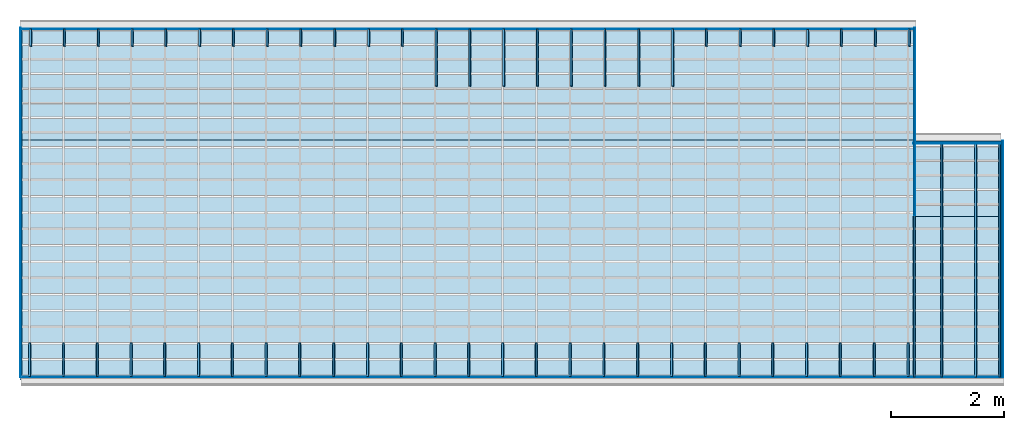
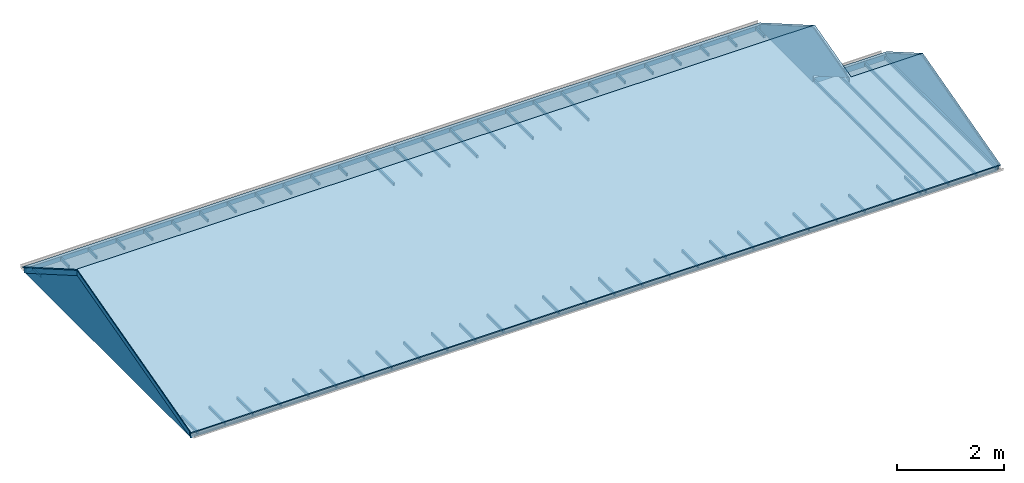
# One storey, part 1 of 12: 61 beams, 6 discrete accessories, 3 slabs, 3 walls.
"""IFC2X3 building model written with IfcOpenShell, lengths in millimetres."""

from ifc_helpers import new_model, entity, si_unit, converted_unit, money_unit, direction, frame, origin_with_axes, place, context, subcontext, project, spatial, polyline, outline, extrude, faceted_brep, source, transform, mapped, material, layer, layer_set, layer_usage, type_object, element, save


model = new_model("IFC2X3")

# Units and contexts
model_context = context("Model", 3, precision=1e-05, world=origin_with_axes(), true_north=direction((0.0, 1.0)))
body_context = subcontext(model_context, "Body", "Model", "MODEL_VIEW")
ifc_project = project(units=[si_unit("LENGTHUNIT", "METRE", prefix="MILLI"), si_unit("AREAUNIT", "SQUARE_METRE"), si_unit("VOLUMEUNIT", "CUBIC_METRE"), converted_unit("PLANEANGLEUNIT", "DEGREE", entity("IfcPlaneAngleMeasure", 0.0174532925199), si_unit("PLANEANGLEUNIT", "RADIAN"), dimensions=[0, 0, 0, 0, 0, 0, 0]), si_unit("SOLIDANGLEUNIT", "STERADIAN"), money_unit("AUD"), si_unit("TIMEUNIT", "SECOND"), si_unit("MASSUNIT", "GRAM"), si_unit("THERMODYNAMICTEMPERATUREUNIT", "DEGREE_CELSIUS"), si_unit("LUMINOUSINTENSITYUNIT", "LUMEN")], contexts=[model_context])

# Site, building, storey
site_placement = place(None, origin_with_axes())
site = spatial("IfcSite", under=ifc_project, at=site_placement, Name="Lot 1. East Hills", CompositionType="ELEMENT")
building_placement = place(site_placement, origin_with_axes())
building = spatial("IfcBuilding", under=site, at=building_placement, Name="Proposed Units 7 & 8", CompositionType="ELEMENT")
storey_placement = place(building_placement, frame((0.0, 0.0, 8395.0), z_axis=(0.0, 0.0, 1.0), x_axis=(1.0, 0.0, 0.0)))
storey = spatial("IfcBuildingStorey", under=building, at=storey_placement, Name="Roof", CompositionType="ELEMENT", Elevation=8395.0)

# Beams
ifc_material_1 = material(Name="50 %")
beam_type = type_object("IfcBeamType", Name="Purlin 12", PredefinedType="NOTDEFINED")
shared_shape_1 = source(origin_with_axes(), body_context, "Body", "Brep", [
    faceted_brep([(0.0, -17.5, 65.0), (0.0, -17.5, 0.0), (300.0, -17.5, 0.0), (300.0, -17.5, 65.0), (0.0, 17.5, 65.0), (0.0, 17.5, 0.0), (300.0, 17.5, 0.0), (300.0, 17.5, 65.0)], [[[0, 1, 2, 3]], [[0, 4, 5, 1]], [[1, 5, 6, 2]], [[3, 2, 6, 7]], [[4, 0, 3, 7]], [[5, 4, 7, 6]]]),
])
beam_1_placement = place(storey_placement, frame((13955.0, 5263.0, -168.797689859), z_axis=(0.0, 0.0, 1.0), x_axis=(0.0, 1.0, 0.0)))
element("IfcBeam", 1, at=beam_1_placement, inside=storey, type_object=beam_type, material=ifc_material_1, Name="ROOF_BAT_01 - Purlin 12 - object -", ObjectType="Purlin 12", context=body_context, shape_type="MappedRepresentation", body=[
    mapped(shared_shape_1, transform((0.0, 0.0, 0.0))),
])
shared_shape_2 = source(origin_with_axes(), body_context, "Body", "Brep", [
    faceted_brep([(0.0, -17.5, 65.0), (0.0, -17.5, 0.0), (315.0, -17.5, 0.0), (315.0, -17.5, 65.0), (0.0, 17.5, 65.0), (0.0, 17.5, 0.0), (315.0, 17.5, 0.0), (315.0, 17.5, 65.0)], [[[0, 1, 2, 3]], [[0, 4, 5, 1]], [[1, 5, 6, 2]], [[3, 2, 6, 7]], [[4, 0, 3, 7]], [[5, 4, 7, 6]]]),
])
for number, where, z_axis, x_axis, name in (
    (2, (14555.0, 5263.0, -168.797689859), (0.0, 0.0, 1.0), (0.0, 1.0, 0.0), "ROOF_BAT_02 - Purlin 12 - object -"),
    (3, (15155.0, 5263.0, -168.797689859), (0.0, 0.0, 1.0), (0.0, 1.0, 0.0), "ROOF_BAT_03 - Purlin 12 - object -"),
    (4, (15755.0, 5263.0, -168.797689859), (0.0, 0.0, 1.0), (0.0, 1.0, 0.0), "ROOF_BAT_04 - Purlin 12 - object -"),
    (5, (13355.0, 5263.0, -168.797689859), (0.0, 0.0, 1.0), (0.0, 1.0, 0.0), "ROOF_BAT_05 - Purlin 12 - object -"),
    (6, (12755.0, 5263.0, -168.797689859), (0.0, 0.0, 1.0), (0.0, 1.0, 0.0), "ROOF_BAT_06 - Purlin 12 - object -"),
    (7, (12155.0, 5263.0, -168.797689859), (0.0, 0.0, 1.0), (0.0, 1.0, 0.0), "ROOF_BAT_07 - Purlin 12 - object -"),
    (8, (6755.0, 5263.0, -168.797689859), (0.0, 0.0, 1.0), (0.0, 1.0, 0.0), "ROOF_BAT_09 - Purlin 12 - object -"),
    (9, (6155.0, 5263.0, -168.797689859), (0.0, 0.0, 1.0), (0.0, 1.0, 0.0), "ROOF_BAT_10 - Purlin 12 - object -"),
    (10, (5555.0, 5263.0, -168.797689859), (0.0, 0.0, 1.0), (0.0, 1.0, 0.0), "ROOF_BAT_11 - Purlin 12 - object -"),
    (11, (4955.0, 5263.0, -168.797689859), (0.0, 0.0, 1.0), (0.0, 1.0, 0.0), "ROOF_BAT_12 - Purlin 12 - object -"),
    (12, (4355.0, 5263.0, -168.797689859), (0.0, 0.0, 1.0), (0.0, 1.0, 0.0), "ROOF_BAT_13 - Purlin 12 - object -"),
    (13, (3755.0, 5263.0, -168.797689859), (0.0, 0.0, 1.0), (0.0, 1.0, 0.0), "ROOF_BAT_14 - Purlin 12 - object -"),
    (14, (3155.0, 5263.0, -168.797689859), (0.0, 0.0, 1.0), (0.0, 1.0, 0.0), "ROOF_BAT_15 - Purlin 12 - object -"),
    (15, (2555.0, 5263.0, -168.797689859), (0.0, 0.0, 1.0), (0.0, 1.0, 0.0), "ROOF_BAT_16 - Purlin 12 - object -"),
    (16, (1955.0, 5263.0, -168.797689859), (0.0, 0.0, 1.0), (0.0, 1.0, 0.0), "ROOF_BAT_17 - Purlin 12 - object -"),
    (17, (1355.0, 5263.0, -168.797689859), (0.0, 0.0, 1.0), (0.0, 1.0, 0.0), "ROOF_BAT_18 - Purlin 12 - object -"),
    (18, (755.0, 5263.0, -168.797689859), (0.0, 0.0, 1.0), (0.0, 1.0, 0.0), "ROOF_BAT_19 - Purlin 12 - object -"),
    (19, (155.0, 5263.0, -168.797689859), (0.0, 0.0, 1.0), (0.0, 1.0, 0.0), "ROOF_BAT_20 - Purlin 12 - object -"),
):
    element("IfcBeam", number, at=place(storey_placement, frame(where, z_axis=z_axis, x_axis=x_axis)), inside=storey, type_object=beam_type, material=ifc_material_1, Name=name, ObjectType="Purlin 12", context=body_context, shape_type="MappedRepresentation", body=[
        mapped(shared_shape_2, transform((0.0, 0.0, 0.0))),
    ])
shared_shape_3 = source(origin_with_axes(), body_context, "Body", "Brep", [
    faceted_brep([(0.0, -17.5, 65.0), (0.0, -17.5, 0.0), (1025.0, -17.5, 0.0), (1025.0, -17.5, 65.0), (0.0, 17.5, 65.0), (0.0, 17.5, 0.0), (1025.0, 17.5, 0.0), (1025.0, 17.5, 65.0)], [[[0, 1, 2, 3]], [[0, 4, 5, 1]], [[1, 5, 6, 2]], [[3, 2, 6, 7]], [[4, 0, 3, 7]], [[5, 4, 7, 6]]]),
])
for number, where, z_axis, x_axis, name in (
    (20, (10955.0, 4553.0, -168.797689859), (0.0, 0.0, 1.0), (0.0, 1.0, 0.0), "ROOF_BAT_21 - Purlin 12 - object -"),
    (21, (10355.0, 4553.0, -168.797689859), (0.0, 0.0, 1.0), (0.0, 1.0, 0.0), "ROOF_BAT_22 - Purlin 12 - object -"),
    (22, (9755.0, 4553.0, -168.797689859), (0.0, 0.0, 1.0), (0.0, 1.0, 0.0), "ROOF_BAT_23 - Purlin 12 - object -"),
    (23, (9155.0, 4553.0, -168.797689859), (0.0, 0.0, 1.0), (0.0, 1.0, 0.0), "ROOF_BAT_24 - Purlin 12 - object -"),
    (24, (8555.0, 4553.0, -168.797689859), (0.0, 0.0, 1.0), (0.0, 1.0, 0.0), "ROOF_BAT_25 - Purlin 12 - object -"),
    (25, (7955.0, 4553.0, -168.797689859), (0.0, 0.0, 1.0), (0.0, 1.0, 0.0), "ROOF_BAT_26 - Purlin 12 - object -"),
    (26, (11555.0, 4553.0, -168.797689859), (0.0, 0.0, 1.0), (0.0, 1.0, 0.0), "ROOF_BAT_08 - Purlin 12 - object -"),
):
    element("IfcBeam", number, at=place(storey_placement, frame(where, z_axis=z_axis, x_axis=x_axis)), inside=storey, type_object=beam_type, material=ifc_material_1, Name=name, ObjectType="Purlin 12", context=body_context, shape_type="MappedRepresentation", body=[
        mapped(shared_shape_3, transform((0.0, 0.0, 0.0))),
    ])
shared_shape_4 = source(origin_with_axes(), body_context, "Body", "Brep", [
    faceted_brep([(0.0, -17.5, 65.0), (0.0, -17.5, 0.0), (1025.0, -17.5, 0.0), (1025.0, -17.5, 65.0), (0.0, 17.5, 65.0), (0.0, 17.5, 0.0), (1025.0, 17.5, 0.0), (1025.0, 17.5, 65.0)], [[[0, 1, 2, 3]], [[0, 4, 5, 1]], [[1, 5, 6, 2]], [[3, 2, 6, 7]], [[4, 0, 3, 7]], [[5, 4, 7, 6]]]),
])
beam_2_placement = place(storey_placement, frame((7355.0, 4553.0, -168.797689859), z_axis=(0.0, 0.0, 1.0), x_axis=(0.0, 1.0, 0.0)))
element("IfcBeam", 27, at=beam_2_placement, inside=storey, type_object=beam_type, material=ifc_material_1, Name="ROOF_BAT_27 - Purlin 12 - object -", ObjectType="Purlin 12", context=body_context, shape_type="MappedRepresentation", body=[
    mapped(shared_shape_4, transform((0.0, 0.0, 0.0))),
])
shared_shape_5 = source(origin_with_axes(), body_context, "Body", "Brep", [
    faceted_brep([(0.0, -17.5, 65.0), (0.0, -17.5, 0.0), (600.0, -17.5, 0.0), (600.0, -17.5, 65.0), (0.0, 17.5, 65.0), (0.0, 17.5, 0.0), (600.0, 17.5, 0.0), (600.0, 17.5, 65.0)], [[[0, 1, 2, 3]], [[0, 4, 5, 1]], [[1, 5, 6, 2]], [[3, 2, 6, 7]], [[4, 0, 3, 7]], [[5, 4, 7, 6]]]),
])
for number, where, z_axis, x_axis, name in (
    (28, (15737.5000167, -603.131248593, -168.797689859), (0.0, 0.0, 1.0), (0.0, 1.0, 0.0), "ROOF_BAT_28 - Purlin 12 - object -"),
    (29, (15137.5000167, -603.131248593, -168.797689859), (0.0, 0.0, 1.0), (0.0, 1.0, 0.0), "ROOF_BAT_30 - Purlin 12 - object -"),
    (30, (14537.5000167, -603.131248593, -168.797689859), (0.0, 0.0, 1.0), (0.0, 1.0, 0.0), "ROOF_BAT_31 - Purlin 12 - object -"),
    (31, (13937.5000167, -603.131248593, -168.797689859), (0.0, 0.0, 1.0), (0.0, 1.0, 0.0), "ROOF_BAT_32 - Purlin 12 - object -"),
    (32, (13337.5000167, -603.131248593, -168.797689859), (0.0, 0.0, 1.0), (0.0, 1.0, 0.0), "ROOF_BAT_33 - Purlin 12 - object -"),
    (33, (12737.5000167, -603.131248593, -168.797689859), (0.0, 0.0, 1.0), (0.0, 1.0, 0.0), "ROOF_BAT_34 - Purlin 12 - object -"),
    (34, (12137.5000167, -603.131248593, -168.797689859), (0.0, 0.0, 1.0), (0.0, 1.0, 0.0), "ROOF_BAT_35 - Purlin 12 - object -"),
    (35, (11537.5000167, -603.131248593, -168.797689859), (0.0, 0.0, 1.0), (0.0, 1.0, 0.0), "ROOF_BAT_36 - Purlin 12 - object -"),
    (36, (10937.5000167, -603.131248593, -168.797689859), (0.0, 0.0, 1.0), (0.0, 1.0, 0.0), "ROOF_BAT_37 - Purlin 12 - object -"),
    (37, (10337.5000167, -603.131248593, -168.797689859), (0.0, 0.0, 1.0), (0.0, 1.0, 0.0), "ROOF_BAT_38 - Purlin 12 - object -"),
    (38, (9737.50001667, -603.131248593, -168.797689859), (0.0, 0.0, 1.0), (0.0, 1.0, 0.0), "ROOF_BAT_39 - Purlin 12 - object -"),
    (39, (9137.50001667, -603.131248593, -168.797689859), (0.0, 0.0, 1.0), (0.0, 1.0, 0.0), "ROOF_BAT_40 - Purlin 12 - object -"),
    (40, (8537.50001667, -603.131248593, -168.797689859), (0.0, 0.0, 1.0), (0.0, 1.0, 0.0), "ROOF_BAT_41 - Purlin 12 - object -"),
    (41, (7937.50001667, -603.131248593, -168.797689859), (0.0, 0.0, 1.0), (0.0, 1.0, 0.0), "ROOF_BAT_42 - Purlin 12 - object -"),
    (42, (7337.50001667, -603.131248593, -168.797689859), (0.0, 0.0, 1.0), (0.0, 1.0, 0.0), "ROOF_BAT_43 - Purlin 12 - object -"),
    (43, (6737.50001667, -603.131248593, -168.797689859), (0.0, 0.0, 1.0), (0.0, 1.0, 0.0), "ROOF_BAT_44 - Purlin 12 - object -"),
    (44, (6137.50001667, -603.131248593, -168.797689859), (0.0, 0.0, 1.0), (0.0, 1.0, 0.0), "ROOF_BAT_45 - Purlin 12 - object -"),
    (45, (5537.50001667, -603.131248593, -168.797689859), (0.0, 0.0, 1.0), (0.0, 1.0, 0.0), "ROOF_BAT_46 - Purlin 12 - object -"),
    (46, (4937.50001667, -603.131248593, -168.797689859), (0.0, 0.0, 1.0), (0.0, 1.0, 0.0), "ROOF_BAT_47 - Purlin 12 - object -"),
    (47, (4337.50001667, -603.131248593, -168.797689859), (0.0, 0.0, 1.0), (0.0, 1.0, 0.0), "ROOF_BAT_48 - Purlin 12 - object -"),
    (48, (3737.50001667, -603.131248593, -168.797689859), (0.0, 0.0, 1.0), (0.0, 1.0, 0.0), "ROOF_BAT_49 - Purlin 12 - object -"),
    (49, (3137.50001667, -603.131248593, -168.797689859), (0.0, 0.0, 1.0), (0.0, 1.0, 0.0), "ROOF_BAT_50 - Purlin 12 - object -"),
    (50, (2537.50001667, -603.131248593, -168.797689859), (0.0, 0.0, 1.0), (0.0, 1.0, 0.0), "ROOF_BAT_51 - Purlin 12 - object -"),
    (51, (1937.50001667, -603.131248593, -168.797689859), (0.0, 0.0, 1.0), (0.0, 1.0, 0.0), "ROOF_BAT_52 - Purlin 12 - object -"),
    (52, (1337.50001667, -603.131248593, -168.797689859), (0.0, 0.0, 1.0), (0.0, 1.0, 0.0), "ROOF_BAT_53 - Purlin 12 - object -"),
    (53, (737.500016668, -603.131248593, -168.797689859), (0.0, 0.0, 1.0), (0.0, 1.0, 0.0), "ROOF_BAT_54 - Purlin 12 - object -"),
    (54, (137.5, -603.130430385, -168.797689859), (0.0, 0.0, 1.0), (0.0, 1.0, 0.0), "ROOF_BAT_55 - Purlin 12 - object -"),
):
    element("IfcBeam", number, at=place(storey_placement, frame(where, z_axis=z_axis, x_axis=x_axis)), inside=storey, type_object=beam_type, material=ifc_material_1, Name=name, ObjectType="Purlin 12", context=body_context, shape_type="MappedRepresentation", body=[
        mapped(shared_shape_5, transform((0.0, 0.0, 0.0))),
    ])
shared_shape_6 = source(origin_with_axes(), body_context, "Body", "Brep", [
    faceted_brep([(0.0, -7.5, 105.0), (0.0, -7.5, 0.0), (15829.8428402, -7.5, 0.0), (15829.8428402, -7.5, 105.0), (0.0, 7.5, 105.0), (0.0, 7.5, 0.0), (15829.8428402, 7.5, 0.0), (15829.8428402, 7.5, 105.0)], [[[0, 1, 2, 3]], [[0, 4, 5, 1]], [[1, 5, 6, 2]], [[3, 2, 6, 7]], [[4, 0, 3, 7]], [[5, 4, 7, 6]]]),
])
beam_3_placement = place(storey_placement, frame((0.157159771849, 5570.5, -188.824563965), z_axis=(0.0, 0.0, 1.0), x_axis=(1.0, 0.0, 0.0)))
element("IfcBeam", 55, at=beam_3_placement, inside=storey, type_object=beam_type, material=ifc_material_1, Name="ROOF_BAT_29 - Purlin 12 - object -", ObjectType="Purlin 12", context=body_context, shape_type="MappedRepresentation", body=[
    mapped(shared_shape_6, transform((0.0, 0.0, 0.0))),
])
shared_shape_7 = source(origin_with_axes(), body_context, "Body", "Brep", [
    faceted_brep([(0.0, -7.5, 130.0), (0.0, -7.5, 0.0), (17411.7622595, -7.5, 0.0), (17411.7622595, -7.5, 130.0), (0.0, 7.5, 130.0), (0.0, 7.5, 0.0), (17411.7622595, 7.5, 0.0), (17411.7622595, 7.5, 130.0)], [[[0, 1, 2, 3]], [[0, 4, 5, 1]], [[1, 5, 6, 2]], [[3, 2, 6, 7]], [[4, 0, 3, 7]], [[5, 4, 7, 6]]]),
])
beam_4_placement = place(storey_placement, frame((-20.0005709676, -609.515700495, -208.12796424), z_axis=(0.0, 0.0, 1.0), x_axis=(1.0, 0.0, 0.0)))
element("IfcBeam", 56, at=beam_4_placement, inside=storey, type_object=beam_type, material=ifc_material_1, Name="ROOF_BAT_56 - Purlin 12 - object -", ObjectType="Purlin 12", context=body_context, shape_type="MappedRepresentation", body=[
    mapped(shared_shape_7, transform((0.0, 0.0, 0.0))),
])
shared_shape_8 = source(origin_with_axes(), body_context, "Body", "Brep", [
    faceted_brep([(0.0, -7.5, 130.0), (0.0, -7.5, 0.0), (1561.7616885, -7.5, 0.0), (1561.7616885, -7.5, 130.0), (0.0, 7.5, 130.0), (0.0, 7.5, 0.0), (1561.7616885, 7.5, 0.0), (1561.7616885, 7.5, 130.0)], [[[0, 1, 2, 3]], [[0, 4, 5, 1]], [[1, 5, 6, 2]], [[3, 2, 6, 7]], [[4, 0, 3, 7]], [[5, 4, 7, 6]]]),
])
beam_5_placement = place(storey_placement, frame((15830.0, 3542.88128841, -188.824563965), z_axis=(0.0, 0.0, 1.0), x_axis=(1.0, 0.0, 0.0)))
element("IfcBeam", 57, at=beam_5_placement, inside=storey, type_object=beam_type, material=ifc_material_1, Name="ROOF_BAT_56 - Purlin 12 - object -", ObjectType="Purlin 12", context=body_context, shape_type="MappedRepresentation", body=[
    mapped(shared_shape_8, transform((0.0, 0.0, 0.0))),
])
shared_shape_9 = source(origin_with_axes(), body_context, "Body", "Brep", [
    faceted_brep([(0.0, -17.5, 65.0), (0.0, -17.5, 0.0), (4150.00067027, -17.5, 0.0), (4150.00067027, -17.5, 65.0), (0.0, 17.5, 65.0), (0.0, 17.5, 0.0), (4150.00067027, 17.5, 0.0), (4150.00067027, 17.5, 65.0)], [[[0, 1, 2, 3]], [[0, 4, 5, 1]], [[1, 5, 6, 2]], [[3, 2, 6, 7]], [[4, 0, 3, 7]], [[5, 4, 7, 6]]]),
])
for number, where, z_axis, x_axis, name in (
    (58, (16337.5, -614.643015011, -168.797689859), (0.0, 0.0, 1.0), (0.0, 1.0, 0.0), "ROOF_BAT_28 - Purlin 12 - object -"),
    (59, (16937.5, -614.643015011, -168.797689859), (0.0, 0.0, 1.0), (0.0, 1.0, 0.0), "ROOF_BAT_28 - Purlin 12 - object -"),
    (60, (17368.9117698, -614.643015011, -168.797689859), (0.0, 0.0, 1.0), (0.0, 1.0, 0.0), "ROOF_BAT_28 - Purlin 12 - object -"),
    (61, (15847.5, -614.643015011, -168.797689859), (0.0, 0.0, 1.0), (0.0, 1.0, 0.0), "ROOF_BAT_28 - Purlin 12 - object -"),
):
    element("IfcBeam", number, at=place(storey_placement, frame(where, z_axis=z_axis, x_axis=x_axis)), inside=storey, type_object=beam_type, material=ifc_material_1, Name=name, ObjectType="Purlin 12", context=body_context, shape_type="MappedRepresentation", body=[
        mapped(shared_shape_9, transform((0.0, 0.0, 0.0))),
    ])

# Slabs
ifc_material_2 = material(Name="Gravel")
ifc_layer_1 = layer(ifc_material_2, 21.6506350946, ventilated="UNKNOWN")
ifc_layer_set_1 = layer_set([ifc_layer_1], Name="Gravel 21.6506")
ifc_layer_usage_1 = layer_usage(ifc_layer_set_1, "AXIS3", "NEGATIVE", 21.6506350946)
slab_type_1 = type_object("IfcSlabType", Name="Gravel 22", PredefinedType="ROOF")
slab_1_placement = place(storey_placement, frame((0.0, 5263.40772596, 106.849792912), z_axis=(0.0, 0.0, 1.0), x_axis=(1.0, 0.0, 0.0)))
element("IfcSlab", 62, at=slab_1_placement, inside=storey, type_object=slab_type_1, material=ifc_layer_usage_1, Name="Roof002 Gravel  Roof", PredefinedType="ROOF", context=body_context, shape_type="SweptSolid", body=[
    extrude(outline(polyline([(-35.0, 427.442814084), (-35.0, -1919.78198577), (15865.0, -1919.78198577), (15865.0, 427.442814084), (-35.0, 427.442814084)])), frame((0.0, 0.0, 0.0), z_axis=(0.0, 0.5, 0.866025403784), x_axis=(1.0, 0.0, 0.0)), (0.0, -0.5, 0.866025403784), 25.0),
])
ifc_layer_usage_2 = layer_usage(ifc_layer_set_1, "AXIS3", "NEGATIVE", 21.6506350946)
slab_2_placement = place(storey_placement, frame((15880.4467605, 3326.8784198, 81.9899326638), z_axis=(0.0, 0.0, 1.0), x_axis=(1.0, 0.0, 0.0)))
element("IfcSlab", 63, at=slab_2_placement, inside=storey, type_object=slab_type_1, material=ifc_layer_usage_2, Name="Roof002 Gravel  Roof", PredefinedType="ROOF", context=body_context, shape_type="SweptSolid", body=[
    extrude(outline(polyline([(-50.4467604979, 297.913347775), (-50.4467604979, -1251.35330568), (1545.23268764, -1251.35330568), (1545.23268764, 297.913347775), (-50.4467604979, 297.913347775)])), frame((0.0, 0.0, 0.0), z_axis=(0.0, 0.5, 0.866025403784), x_axis=(1.0, 0.0, 0.0)), (0.0, -0.5, 0.866025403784), 25.0),
])
ifc_layer_2 = layer(ifc_material_2, 24.1481456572, ventilated="UNKNOWN")
ifc_layer_set_2 = layer_set([ifc_layer_2], Name="Gravel 24.1481")
ifc_layer_usage_3 = layer_usage(ifc_layer_set_2, "AXIS3", "NEGATIVE", 24.1481456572)
slab_type_2 = type_object("IfcSlabType", Name="Gravel 24", PredefinedType="NOTDEFINED")
slab_3_placement = place(storey_placement, frame((0.0, 0.407569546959, 107.76214902), z_axis=(0.0, 0.0, 1.0), x_axis=(1.0, 0.0, 0.0)))
element("IfcSlab", 64, at=slab_3_placement, inside=storey, type_object=slab_type_2, material=ifc_layer_usage_3, Name="Roof001 Gravel  Roof", PredefinedType="ROOF", context=body_context, shape_type="SweptSolid", body=[
    extrude(outline(polyline([(-35.0, -687.486801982), (17425.6794481, -687.486801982), (17425.6794481, 2322.62100642), (15880.4467605, 2322.62100642), (15880.4467605, 3727.42909715), (-35.0, 3727.42909715), (-35.0, -687.486801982)])), frame((0.0, 0.0, 0.0), z_axis=(0.0, -0.258819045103, 0.965925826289), x_axis=(1.0, 0.0, 0.0)), (0.0, 0.258819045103, 0.965925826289), 25.0),
])

# Walls
ifc_material_3 = material(Name="Timber Stud")
wall_type = type_object("IfcWallType", Name="Timber Stud 20", PredefinedType="NOTDEFINED")
wall_1_placement = place(storey_placement, frame((15830.0, 5593.0, -188.824563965), z_axis=(0.0, 0.0, 1.0), x_axis=(0.0, -1.0, 0.0)))
element("IfcWall", 65, at=wall_1_placement, inside=storey, type_object=wall_type, material=ifc_material_3, Name="EXT-WL-G03 Timber Stud Wall", context=body_context, shape_type="Brep", body=[
    faceted_brep([(2008.1210529, 20.0, 146.857822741), (2008.1210529, 20.0, 0.0), (0.0, 20.0, 0.0), (0.0, 20.0, 105.384168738), (1992.17224344, 20.0, 1255.56534976), (1992.17239986, 20.0, 1261.3163526), (3321.48415153, 20.0, 905.128361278), (2008.1210529, 0.0, 146.857822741), (2008.1210529, 0.0, 0.0), (0.0, 0.0, 0.0), (0.0, 0.0, 105.384168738), (1992.17224344, 0.0, 1255.56534976), (1992.17239986, 0.0, 1261.3163526), (3321.48415153, 0.0, 905.128361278)], [[[0, 1, 2, 3, 4, 5, 6]], [[1, 0, 7, 8]], [[1, 8, 9, 2]], [[2, 9, 10, 3]], [[10, 11, 4, 3]], [[11, 12, 5, 4]], [[13, 6, 5, 12]], [[0, 6, 13, 7]], [[7, 13, 12, 11, 10, 9, 8]]]),
])
wall_2_placement = place(storey_placement, frame((17390.6794481, 3584.8789471, -188.824563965), z_axis=(0.0, 0.0, 1.0), x_axis=(0.0, -1.0, 0.0)))
element("IfcWall", 66, at=wall_2_placement, inside=storey, type_object=wall_type, material=ifc_material_3, Name="EXT-WL-G03 Timber Stud Wall", context=body_context, shape_type="Brep", body=[
    faceted_brep([(0.0, 0.0, 121.857822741), (0.0, 20.0, 121.857822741), (0.0, 20.0, 0.0), (0.0, 0.0, 0.0), (1341.70427913, 20.0, 896.491149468), (1341.70427913, 0.0, 896.491149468), (1341.70427913, 20.0, 897.53434582), (4194.3946476, 20.0, 133.158265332), (4194.3946476, 20.0, 0.0), (4194.3946476, 0.0, 0.0), (4194.3946476, 0.0, 133.158265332), (1341.70427913, 0.0, 897.53434582)], [[[0, 1, 2, 3]], [[4, 1, 0, 5]], [[4, 6, 7, 8, 2, 1]], [[9, 3, 2, 8]], [[5, 0, 3, 9, 10, 11]], [[11, 6, 4, 5]], [[6, 11, 10, 7]], [[8, 7, 10, 9]]]),
])
wall_3_placement = place(storey_placement, frame((0.0, 5561.88447895, -188.824563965), z_axis=(0.0, 0.0, 1.0), x_axis=(0.0, -1.0, 0.0)))
element("IfcWall", 67, at=wall_3_placement, inside=storey, type_object=wall_type, material=ifc_material_3, Name="EXT-WL-G03 Timber Stud Wall", context=body_context, shape_type="Brep", body=[
    faceted_brep([(0.0, -20.0, 123.34872319), (0.0, 0.0, 123.34872319), (0.0, 0.0, 0.0), (0.0, -20.0, 0.0), (1961.0567224, 0.0, 1255.56534976), (1961.0567224, -20.0, 1255.56534976), (1961.0567224, 0.0, 1261.3163526), (6165.01572755, 0.0, 134.868974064), (6165.01572755, 0.0, 0.0), (6165.01572755, -20.0, 0.0), (6165.01572755, -20.0, 134.868974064), (1961.0567224, -20.0, 1261.3163526)], [[[0, 1, 2, 3]], [[4, 1, 0, 5]], [[4, 6, 7, 8, 2, 1]], [[9, 3, 2, 8]], [[5, 0, 3, 9, 10, 11]], [[11, 6, 4, 5]], [[6, 11, 10, 7]], [[8, 7, 10, 9]]]),
])

# Discrete accessories
discrete_accessory_type = type_object("IfcDiscreteAccessoryType", Name="Block Inclined 12")
shared_shape_10 = source(origin_with_axes(), body_context, "Body", "Brep", [
    faceted_brep([(0.0, -7.5, 0.0), (0.0, -7.5, 108.703998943), (-2856.54929028, -7.5, 874.114074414), (-2848.46881377, -7.5, 763.244918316), (0.0, 7.5, 0.0), (0.0, 7.5, 108.703998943), (-2856.54929028, 7.5, 874.114074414), (-2848.46881377, 7.5, 763.244918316)], [[[0, 1, 2, 3]], [[0, 4, 5, 1]], [[1, 5, 6, 2]], [[2, 6, 7, 3]], [[0, 3, 7, 4]], [[4, 7, 6, 5]]]),
])
discrete_accessory_1_placement = place(storey_placement, frame((17418.1794481, -612.454821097, -168.42814876), z_axis=(0.0, 0.0, 1.0), x_axis=(0.0, -1.0, 0.0)))
element("IfcDiscreteAccessory", 68, at=discrete_accessory_1_placement, inside=storey, type_object=discrete_accessory_type, material=ifc_material_1, Name="CEL-MOD-G48 - Block Inclined 12 - object -", context=body_context, shape_type="MappedRepresentation", body=[
    mapped(shared_shape_10, transform((0.0, 0.0, 0.0))),
])
shared_shape_11 = source(origin_with_axes(), body_context, "Body", "Brep", [
    faceted_brep([(0.0, -7.5, 0.0), (1345.94121864, -7.5, 776.961461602), (1340.75396638, -7.5, 895.206006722), (0.0, -7.5, 121.238951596), (0.0, 7.5, 0.0), (1345.94121864, 7.5, 776.961461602), (1340.75396638, 7.5, 895.206006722), (0.0, 7.5, 121.238951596)], [[[0, 1, 2, 3]], [[0, 4, 5, 1]], [[2, 1, 5, 6]], [[3, 2, 6, 7]], [[0, 3, 7, 4]], [[4, 7, 6, 5]]]),
])
discrete_accessory_2_placement = place(storey_placement, frame((17418.1794481, 3584.8789471, -188.824563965), z_axis=(0.0, 0.0, 1.0), x_axis=(0.0, -1.0, 0.0)))
element("IfcDiscreteAccessory", 69, at=discrete_accessory_2_placement, inside=storey, type_object=discrete_accessory_type, material=ifc_material_1, Name="CEL-MOD-G48 - Block Inclined 12 - object -", context=body_context, shape_type="MappedRepresentation", body=[
    mapped(shared_shape_11, transform((0.0, 0.0, 0.0))),
])
shared_shape_12 = source(origin_with_axes(), body_context, "Body", "Brep", [
    faceted_brep([(0.0, -7.5, 0.0), (1993.46398282, -7.5, 1150.75210439), (1988.27673056, -7.5, 1268.99664951), (0.0, -7.5, 121.238951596), (0.0, 7.5, 0.0), (1993.46398282, 7.5, 1150.75210439), (1988.27673056, 7.5, 1268.99664951), (0.0, 7.5, 121.238951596)], [[[0, 1, 2, 3]], [[0, 4, 5, 1]], [[2, 1, 5, 6]], [[3, 2, 6, 7]], [[0, 3, 7, 4]], [[4, 7, 6, 5]]]),
])
for number, where, z_axis, x_axis, name in (
    (70, (15857.5, 5589.62561428, -200.865901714), (0.0, 0.0, 1.0), (0.0, -1.0, 0.0), "CEL-MOD-G48 - Block Inclined 12 - object -"),
    (71, (-27.5, 5589.62561428, -200.865901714), (0.0, 0.0, 1.0), (0.0, -1.0, 0.0), "CEL-MOD-G48 - Block Inclined 12 - object -"),
):
    element("IfcDiscreteAccessory", number, at=place(storey_placement, frame(where, z_axis=z_axis, x_axis=x_axis)), inside=storey, type_object=discrete_accessory_type, material=ifc_material_1, Name=name, context=body_context, shape_type="MappedRepresentation", body=[
        mapped(shared_shape_12, transform((0.0, 0.0, 0.0))),
    ])
shared_shape_13 = source(origin_with_axes(), body_context, "Body", "Brep", [
    faceted_brep([(0.0, -7.5, 0.0), (0.0, -7.5, 108.703998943), (-1337.98985174, -7.5, 467.217299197), (-1329.90937523, -7.5, 356.348143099), (0.0, 7.5, 0.0), (0.0, 7.5, 108.703998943), (-1337.98985174, 7.5, 467.217299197), (-1329.90937523, 7.5, 356.348143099)], [[[0, 1, 2, 3]], [[0, 4, 5, 1]], [[1, 5, 6, 2]], [[2, 6, 7, 3]], [[0, 3, 7, 4]], [[4, 7, 6, 5]]]),
])
discrete_accessory_3_placement = place(storey_placement, frame((15857.5, 2263.32852045, 600.2179315), z_axis=(0.0, 0.0, 1.0), x_axis=(0.0, -1.0, 0.0)))
element("IfcDiscreteAccessory", 72, at=discrete_accessory_3_placement, inside=storey, type_object=discrete_accessory_type, material=ifc_material_1, Name="CEL-MOD-G48 - Block Inclined 12 - object -", context=body_context, shape_type="MappedRepresentation", body=[
    mapped(shared_shape_13, transform((0.0, 0.0, 0.0))),
])
shared_shape_14 = source(origin_with_axes(), body_context, "Body", "Brep", [
    faceted_brep([(0.0, -7.5, 0.0), (0.0, -7.5, 108.703998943), (-4212.12155714, -7.5, 1237.3385686), (-4204.04108063, -7.5, 1126.4694125), (0.0, 7.5, 0.0), (0.0, 7.5, 108.703998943), (-4212.12155714, 7.5, 1237.3385686), (-4204.04108063, 7.5, 1126.4694125)], [[[0, 1, 2, 3]], [[0, 4, 5, 1]], [[1, 5, 6, 2]], [[2, 6, 7, 3]], [[0, 3, 7, 4]], [[4, 7, 6, 5]]]),
])
discrete_accessory_4_placement = place(storey_placement, frame((-27.5, -610.803184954, -169.903337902), z_axis=(0.0, 0.0, 1.0), x_axis=(0.0, -1.0, 0.0)))
element("IfcDiscreteAccessory", 73, at=discrete_accessory_4_placement, inside=storey, type_object=discrete_accessory_type, material=ifc_material_1, Name="CEL-MOD-G48 - Block Inclined 12 - object -", context=body_context, shape_type="MappedRepresentation", body=[
    mapped(shared_shape_14, transform((0.0, 0.0, 0.0))),
])

save(model, "model.ifc")
